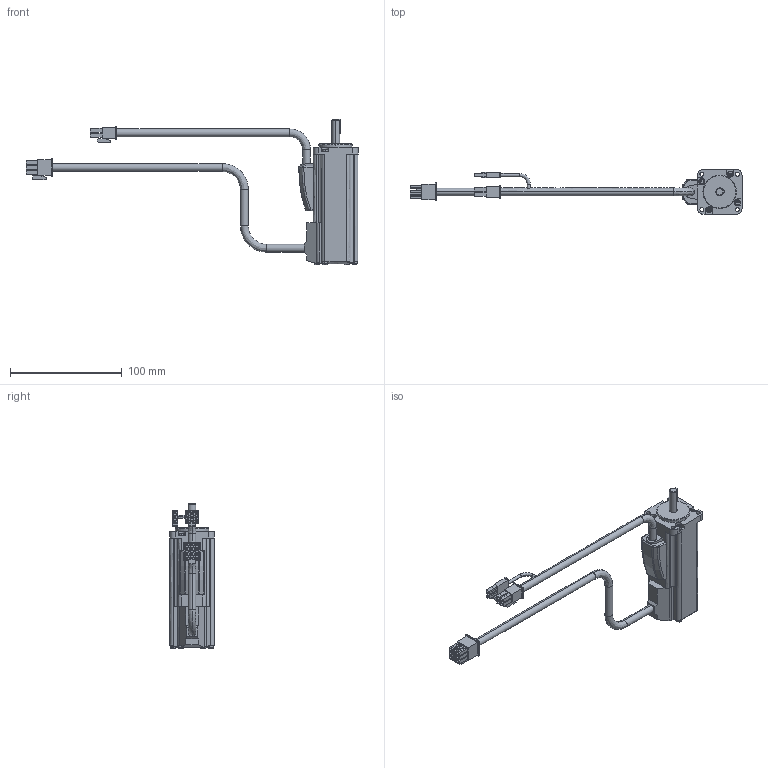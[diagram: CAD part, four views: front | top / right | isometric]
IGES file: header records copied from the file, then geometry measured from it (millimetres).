
Start section:  PTC IGES file: 10001019_rsmz-a3bq-bh_brake.igs
Global section: file name: 10001019_rsmz-a3bq-bh_brake.igs; native system: Pro/ENGINEER by Parametric Technology Corporation; preprocessor: 2004440; author: Administrator; organization: Unknown; date: 070829.201008; units: millimetre
Bounding box: 297.7 x 40 x 130.1 mm (x, y, z)
Volume: 184316 mm3; surface area: 38621.7 mm2
Topology: 1 solids, 1 shells, 505 faces, 1272 edges, 824 vertices
Faces by surface type: bspline 365, revolution 140
